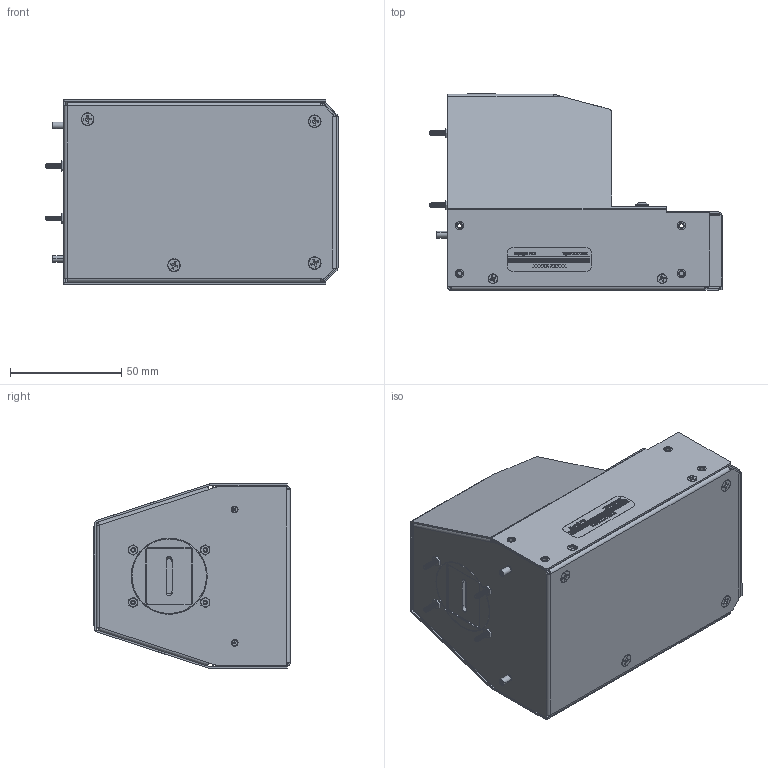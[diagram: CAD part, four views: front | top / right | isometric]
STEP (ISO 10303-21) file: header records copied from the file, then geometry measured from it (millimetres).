
FILE_DESCRIPTION (( 'STEP AP214' ), '1' );
FILE_NAME ('TUB00205.STEP', '2024-02-07T14:45:51', ( '' ), ( '' ), 'SwSTEP 2.0', 'SolidWorks 2023', '' );
FILE_SCHEMA (( 'AUTOMOTIVE_DESIGN' ));
Length unit declared in the file: inch
Products named in the file (1): TUB00205
Bounding box: 131.44 x 88.42 x 83.18 mm (x, y, z)
Surface area: 111341.5 mm2 (no closed solid volume)
Topology: 0 solids, 172 shells, 1194 faces, 6675 edges, 5546 vertices
Faces by surface type: plane 938, cone 122, cylinder 93, bspline 28, torus 9, sphere 4
Full cylindrical faces by diameter (mm): 2.013 x8, 3.79 x1, 5.563 x4, 6.35 x2, 34.036 x1, 34.29 x1
Entity records: 101175 total; most frequent: CARTESIAN_POINT 37924, ORIENTED_EDGE 8447, DIRECTION 8241, EDGE_CURVE 6562, VERTEX_POINT 5508, LINE 4785, VECTOR 4785, AXIS2_PLACEMENT_3D 1728
